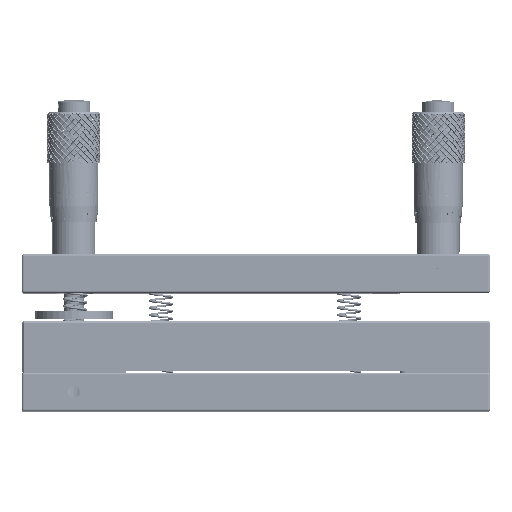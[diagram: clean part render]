
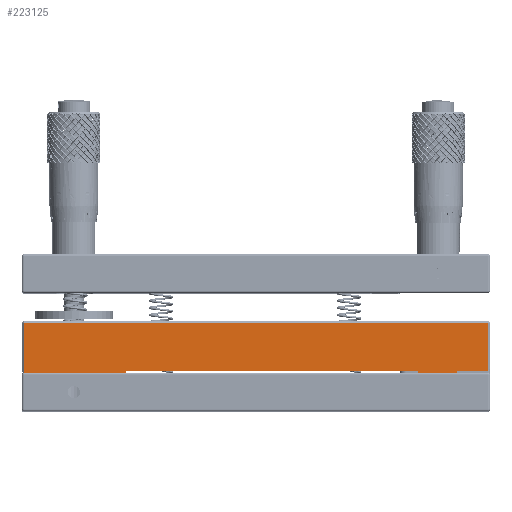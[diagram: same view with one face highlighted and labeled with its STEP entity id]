
A CAD part, top view. The second image highlights one B-rep face of the part: STEP entity #223125.
In plain terms, the highlighted planar face has unit normal (0, 0, 1).
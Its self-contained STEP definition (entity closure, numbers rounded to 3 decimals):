
#53060 = LINE ( 'NONE', #98580, #53066 ) ;
#53066 = VECTOR ( 'NONE', #98586, 1000. ) ;
#53116 = LINE ( 'NONE', #98773, #53135 ) ;
#53135 = VECTOR ( 'NONE', #98814, 1000. ) ;
#53148 = LINE ( 'NONE', #98921, #53154 ) ;
#53154 = VECTOR ( 'NONE', #98993, 1000. ) ;
#53159 = LINE ( 'NONE', #99170, #53180 ) ;
#53180 = VECTOR ( 'NONE', #99178, 1000. ) ;
#53189 = LINE ( 'NONE', #99325, #53216 ) ;
#53216 = VECTOR ( 'NONE', #99358, 1000. ) ;
#53305 = LINE ( 'NONE', #99773, #53321 ) ;
#53321 = VECTOR ( 'NONE', #99796, 1000. ) ;
#53452 = LINE ( 'NONE', #100530, #53456 ) ;
#53456 = VECTOR ( 'NONE', #100706, 1000. ) ;
#53777 = LINE ( 'NONE', #102514, #53791 ) ;
#53791 = VECTOR ( 'NONE', #102523, 1000. ) ;
#53811 = LINE ( 'NONE', #102578, #53822 ) ;
#53822 = VECTOR ( 'NONE', #102588, 1000. ) ;
#53827 = LINE ( 'NONE', #102560, #53837 ) ;
#53837 = VECTOR ( 'NONE', #102533, 1000. ) ;
#83820 = VERTEX_POINT ( 'NONE', #91559 ) ;
#83947 = VERTEX_POINT ( 'NONE', #91648 ) ;
#83984 = VERTEX_POINT ( 'NONE', #91674 ) ;
#84040 = VERTEX_POINT ( 'NONE', #91716 ) ;
#84050 = VERTEX_POINT ( 'NONE', #91722 ) ;
#84059 = VERTEX_POINT ( 'NONE', #91728 ) ;
#84067 = VERTEX_POINT ( 'NONE', #91734 ) ;
#84086 = VERTEX_POINT ( 'NONE', #91746 ) ;
#84173 = VERTEX_POINT ( 'NONE', #91812 ) ;
#84309 = VERTEX_POINT ( 'NONE', #91914 ) ;
#91559 = CARTESIAN_POINT ( 'NONE',  ( 8.692, -12.106, 91.556 ) ) ;
#91648 = CARTESIAN_POINT ( 'NONE',  ( -62.808, -12.606, 91.556 ) ) ;
#91674 = CARTESIAN_POINT ( 'NONE',  ( -62.808, -12.106, 91.556 ) ) ;
#91716 = CARTESIAN_POINT ( 'NONE',  ( 18.192, -12.606, 91.556 ) ) ;
#91722 = CARTESIAN_POINT ( 'NONE',  ( 8.692, -12.606, 91.556 ) ) ;
#91728 = CARTESIAN_POINT ( 'NONE',  ( 25.792, -12.106, 91.556 ) ) ;
#91734 = CARTESIAN_POINT ( 'NONE',  ( 18.192, -12.106, 91.556 ) ) ;
#91746 = CARTESIAN_POINT ( 'NONE',  ( -87.708, -0.406, 91.556 ) ) ;
#91812 = CARTESIAN_POINT ( 'NONE',  ( -87.708, -12.606, 91.556 ) ) ;
#91914 = CARTESIAN_POINT ( 'NONE',  ( 25.792, -0.406, 91.556 ) ) ;
#98580 = CARTESIAN_POINT ( 'NONE',  ( -62.808, -6.256, 91.556 ) ) ;
#98586 = DIRECTION ( 'NONE',  ( 0., 1., 0. ) ) ;
#98773 = CARTESIAN_POINT ( 'NONE',  ( -30.958, -12.106, 91.556 ) ) ;
#98814 = DIRECTION ( 'NONE',  ( -1., 0., 0. ) ) ;
#98921 = CARTESIAN_POINT ( 'NONE',  ( 18.192, -6.256, 91.556 ) ) ;
#98993 = DIRECTION ( 'NONE',  ( 0., 1., 0. ) ) ;
#99170 = CARTESIAN_POINT ( 'NONE',  ( -30.958, -12.606, 91.556 ) ) ;
#99178 = DIRECTION ( 'NONE',  ( -1., 0., 0. ) ) ;
#99325 = CARTESIAN_POINT ( 'NONE',  ( 8.692, -6.256, 91.556 ) ) ;
#99358 = DIRECTION ( 'NONE',  ( 0., 1., 0. ) ) ;
#99773 = CARTESIAN_POINT ( 'NONE',  ( -30.958, -12.106, 91.556 ) ) ;
#99796 = DIRECTION ( 'NONE',  ( -1., 0., 0. ) ) ;
#100530 = CARTESIAN_POINT ( 'NONE',  ( -87.708, -6.256, 91.556 ) ) ;
#100706 = DIRECTION ( 'NONE',  ( 0., -1., 0. ) ) ;
#102514 = CARTESIAN_POINT ( 'NONE',  ( 25.792, 0.094, 91.556 ) ) ;
#102523 = DIRECTION ( 'NONE',  ( 0., 1., 0. ) ) ;
#102533 = DIRECTION ( 'NONE',  ( -1., 0., 0. ) ) ;
#102560 = CARTESIAN_POINT ( 'NONE',  ( -30.958, -12.606, 91.556 ) ) ;
#102578 = CARTESIAN_POINT ( 'NONE',  ( -88.208, -0.406, 91.556 ) ) ;
#102588 = DIRECTION ( 'NONE',  ( -1., 0., 0. ) ) ;
#149448 = PLANE ( 'NONE',  #284132 ) ;
#149489 = CARTESIAN_POINT ( 'NONE',  ( -30.958, -6.256, 91.556 ) ) ;
#149495 = DIRECTION ( 'NONE',  ( 0., 0., -1. ) ) ;
#149500 = DIRECTION ( 'NONE',  ( -1., 0., 0. ) ) ;
#151935 = FACE_OUTER_BOUND ( 'NONE', #185884, .T. ) ;
#185884 = EDGE_LOOP ( 'NONE', ( #266685, #266689, #266693, #266697, #266700, #266705, #266709, #266713, #266717, #266721 ) ) ;
#223125 = ADVANCED_FACE ( 'NONE', ( #151935 ), #149448, .F. ) ;
#266685 = ORIENTED_EDGE ( 'NONE', *, *, #278101, .T. ) ;
#266689 = ORIENTED_EDGE ( 'NONE', *, *, #277944, .T. ) ;
#266693 = ORIENTED_EDGE ( 'NONE', *, *, #278107, .F. ) ;
#266697 = ORIENTED_EDGE ( 'NONE', *, *, #277747, .T. ) ;
#266700 = ORIENTED_EDGE ( 'NONE', *, *, #277875, .F. ) ;
#266705 = ORIENTED_EDGE ( 'NONE', *, *, #277824, .F. ) ;
#266709 = ORIENTED_EDGE ( 'NONE', *, *, #277810, .F. ) ;
#266713 = ORIENTED_EDGE ( 'NONE', *, *, #277794, .T. ) ;
#266717 = ORIENTED_EDGE ( 'NONE', *, *, #277781, .F. ) ;
#266721 = ORIENTED_EDGE ( 'NONE', *, *, #278091, .T. ) ;
#277747 = EDGE_CURVE ( 'NONE', #83947, #83984, #53060, .T. ) ;
#277781 = EDGE_CURVE ( 'NONE', #84059, #84067, #53116, .T. ) ;
#277794 = EDGE_CURVE ( 'NONE', #84040, #84067, #53148, .T. ) ;
#277810 = EDGE_CURVE ( 'NONE', #84040, #84050, #53159, .T. ) ;
#277824 = EDGE_CURVE ( 'NONE', #84050, #83820, #53189, .T. ) ;
#277875 = EDGE_CURVE ( 'NONE', #83820, #83984, #53305, .T. ) ;
#277944 = EDGE_CURVE ( 'NONE', #84086, #84173, #53452, .T. ) ;
#278091 = EDGE_CURVE ( 'NONE', #84059, #84309, #53777, .T. ) ;
#278101 = EDGE_CURVE ( 'NONE', #84309, #84086, #53811, .T. ) ;
#278107 = EDGE_CURVE ( 'NONE', #83947, #84173, #53827, .T. ) ;
#284132 = AXIS2_PLACEMENT_3D ( 'NONE', #149489, #149495, #149500 ) ;
